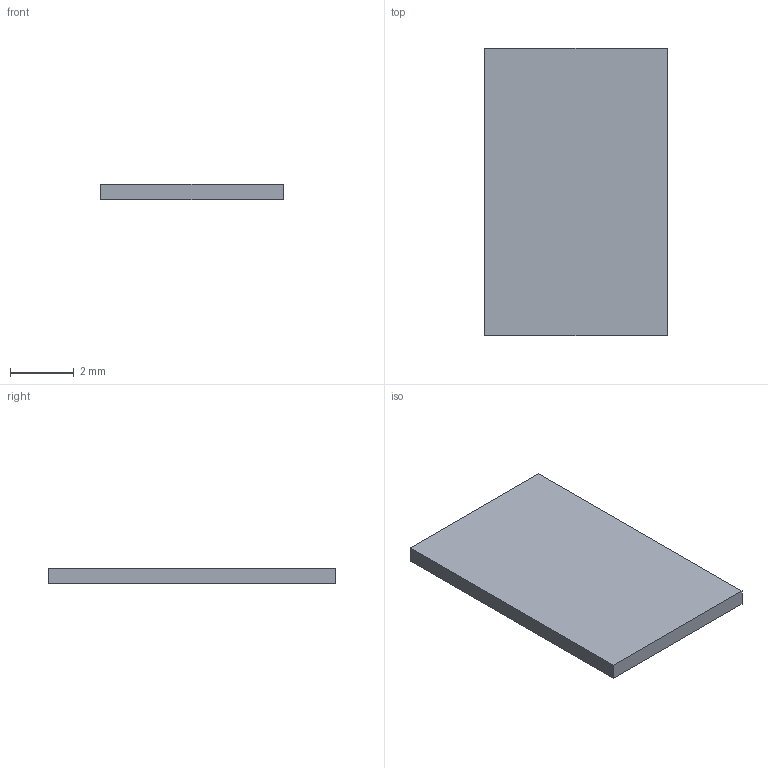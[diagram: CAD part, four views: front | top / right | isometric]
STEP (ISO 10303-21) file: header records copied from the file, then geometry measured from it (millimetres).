
FILE_DESCRIPTION(/* description */ (''),/* implementation_level */ '2;1');
FILE_NAME(/* name */ 'C28_R3_PTT_Rear_Keeper_Pad_0p50.step',/* time_stamp */ '2026-09-10T17:49:52-07:00',/* author */ (''),/* organization */ (''),/* preprocessor_version */ 'ST-DEVELOPER v20.1',/* originating_system */ 'Autodesk Translation Framework v15.8.0.0',/* authorisation */ '');
FILE_SCHEMA (('AUTOMOTIVE_DESIGN { 1 0 10303 214 3 1 1 }'));
Length unit declared in the file: millimetre
Products named in the file (1): 2026-09-10-17-49-52-421
Bounding box: 5.7 x 9 x 0.5 mm (x, y, z)
Volume: 25.7 mm3; surface area: 117.3 mm2
Topology: 1 solids, 1 shells, 6 faces, 12 edges, 8 vertices
Faces by surface type: plane 6
Entity records: 189 total; most frequent: CARTESIAN_POINT 27, DIRECTION 26, ORIENTED_EDGE 24, LINE 12, VECTOR 12, EDGE_CURVE 12, VERTEX_POINT 8, AXIS2_PLACEMENT_3D 7
